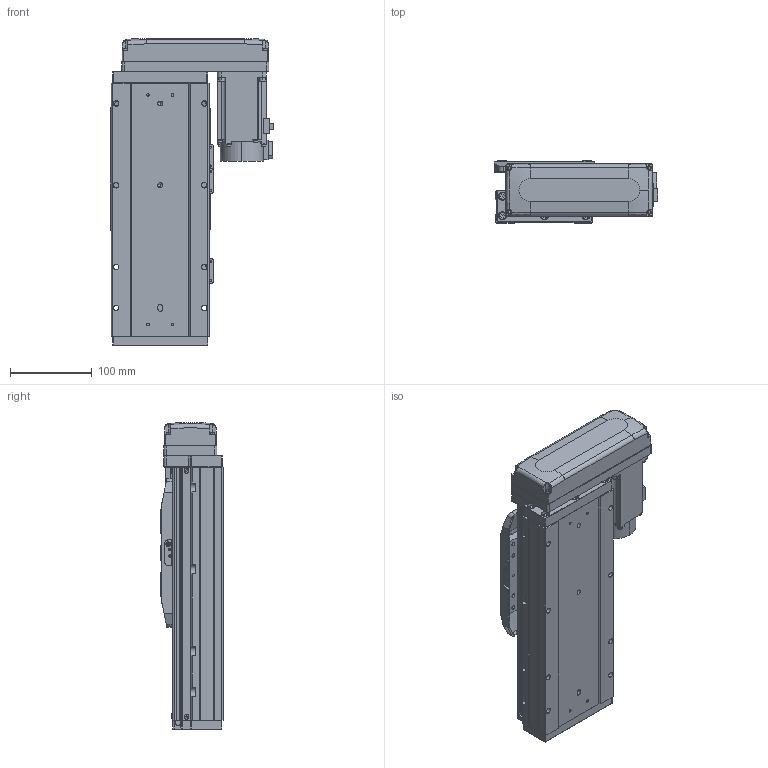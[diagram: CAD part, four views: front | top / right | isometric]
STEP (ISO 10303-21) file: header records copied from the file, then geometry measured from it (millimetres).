
FILE_DESCRIPTION (( 'STEP AP203' ), '1' );
FILE_NAME ('GTH12-100-BL-M40-C4.step', '2023-07-04T10:39:11', ( '微软用户' ), ( '微软中国' ), 'SwSTEP 2.0', 'SolidWorks 2020', '' );
FILE_SCHEMA (( 'CONFIG_CONTROL_DESIGN' ));
Length unit declared in the file: millimetre
Products named in the file (18): GTH80-022; CTHA86-033_M40B; GTH120-006; GTH80-028; GTH120-027-1_GTH120-027-2; GTH120-004; GTH50-023; GTH12-100-BL-M40-C4; GTH120-013; GTH50-024; GBT 70.1-M3℅6; GBT96.1-2002 3×0.8; GBT 70.1-M5×16; BTH-M3X5X6; GTH120-001_100; GBT 70.3-M3℅8; hg-kn43j_-s100_; GTH120-003
Assembly tree (59 placements, depth 2):
  GTH12-100-BL-M40-C4
    GTH120-001_100
    GTH120-003
    GTH120-006
    GTH120-004
    GTH120-013
    GBT 70.1-M3℅6  x14
    GBT 70.1-M5×16  x10
    GBT 70.3-M3℅8  x4
    GTH80-022
    GTH80-028  x2
    GTH50-023  x3
    GTH50-024  x3
    GBT96.1-2002 3×0.8  x6
    BTH-M3X5X6  x8
    hg-kn43j_-s100_
    CTHA86-033_M40B
    GTH120-027-1_GTH120-027-2
Bounding box: 199.8 x 76 x 375.5 mm (x, y, z)
Volume: 3301029.9 mm3; surface area: 404694.1 mm2
Topology: 61 solids, 61 shells, 2336 faces, 5411 edges, 3317 vertices
Faces by surface type: plane 1222, cylinder 654, cone 272, torus 174, sphere 8, bspline 6
Entity records: 42229 total; most frequent: CARTESIAN_POINT 7150, DIRECTION 6939, ORIENTED_EDGE 6432, EDGE_CURVE 3216, AXIS2_PLACEMENT_3D 2427, LINE 2085, VECTOR 2085, VERTEX_POINT 2038
